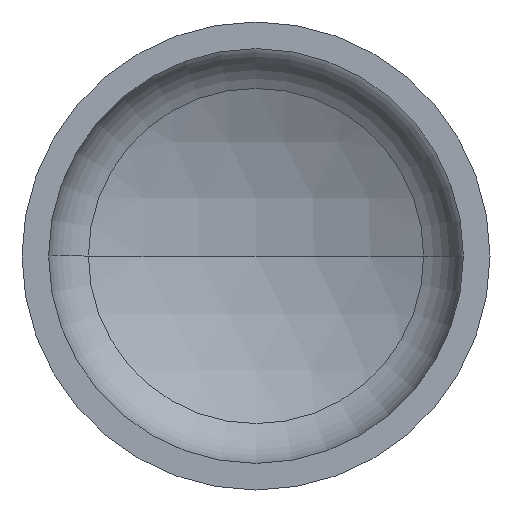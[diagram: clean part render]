
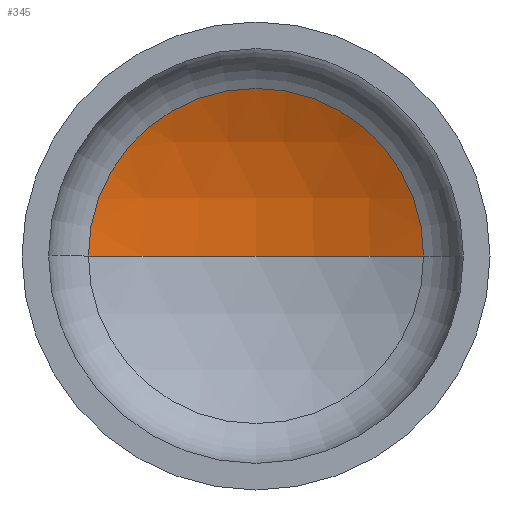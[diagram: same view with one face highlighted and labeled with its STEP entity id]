
A CAD part, front view. The second image highlights one B-rep face of the part: STEP entity #345.
In plain terms, the highlighted spherical face has radius 1040 mm.
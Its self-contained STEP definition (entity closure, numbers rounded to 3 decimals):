
#17 = ORIENTED_EDGE ( 'NONE', *, *, #267, .F. ) ;
#30 = FACE_OUTER_BOUND ( 'NONE', #115, .T. ) ;
#36 = VERTEX_POINT ( 'NONE', #249 ) ;
#50 = AXIS2_PLACEMENT_3D ( 'NONE', #173, #144, #333 ) ;
#66 = VERTEX_POINT ( 'NONE', #370 ) ;
#80 = VERTEX_POINT ( 'NONE', #221 ) ;
#97 = ORIENTED_EDGE ( 'NONE', *, *, #265, .T. ) ;
#103 = ORIENTED_EDGE ( 'NONE', *, *, #263, .T. ) ;
#115 = EDGE_LOOP ( 'NONE', ( #17, #97, #103 ) ) ;
#133 = AXIS2_PLACEMENT_3D ( 'NONE', #242, #234, #166 ) ;
#136 = AXIS2_PLACEMENT_3D ( 'NONE', #254, #280, #279 ) ;
#141 = AXIS2_PLACEMENT_3D ( 'NONE', #208, #199, #201 ) ;
#144 = DIRECTION ( 'NONE',  ( 0., 0., -1. ) ) ;
#166 = DIRECTION ( 'NONE',  ( 1., 0., 0. ) ) ;
#173 = CARTESIAN_POINT ( 'NONE',  ( 0., -631.148, 0. ) ) ;
#186 = CIRCLE ( 'NONE', #136, 1040. ) ;
#199 = DIRECTION ( 'NONE',  ( 0., -1., 0. ) ) ;
#201 = DIRECTION ( 'NONE',  ( 1., 0., 0. ) ) ;
#208 = CARTESIAN_POINT ( 'NONE',  ( 0., 298.845, 0. ) ) ;
#221 = CARTESIAN_POINT ( 'NONE',  ( -465.524, 298.845, 0. ) ) ;
#234 = DIRECTION ( 'NONE',  ( 0., 0., 1. ) ) ;
#242 = CARTESIAN_POINT ( 'NONE',  ( 0., -631.148, 0. ) ) ;
#249 = CARTESIAN_POINT ( 'NONE',  ( 465.524, 298.845, 0. ) ) ;
#254 = CARTESIAN_POINT ( 'NONE',  ( 0., -631.148, 0. ) ) ;
#263 = EDGE_CURVE ( 'NONE', #36, #80, #264, .T. ) ;
#264 = CIRCLE ( 'NONE', #141, 465.524 ) ;
#265 = EDGE_CURVE ( 'NONE', #66, #36, #186, .T. ) ;
#267 = EDGE_CURVE ( 'NONE', #66, #80, #382, .T. ) ;
#279 = DIRECTION ( 'NONE',  ( -1., 0., 0. ) ) ;
#280 = DIRECTION ( 'NONE',  ( 0., 0., -1. ) ) ;
#309 = SPHERICAL_SURFACE ( 'NONE', #50, 1040. ) ;
#333 = DIRECTION ( 'NONE',  ( -1., 0., 0. ) ) ;
#345 = ADVANCED_FACE ( 'NONE', ( #30 ), #309, .F. ) ;
#370 = CARTESIAN_POINT ( 'NONE',  ( 0., 408.852, 0. ) ) ;
#382 = CIRCLE ( 'NONE', #133, 1040. ) ;
